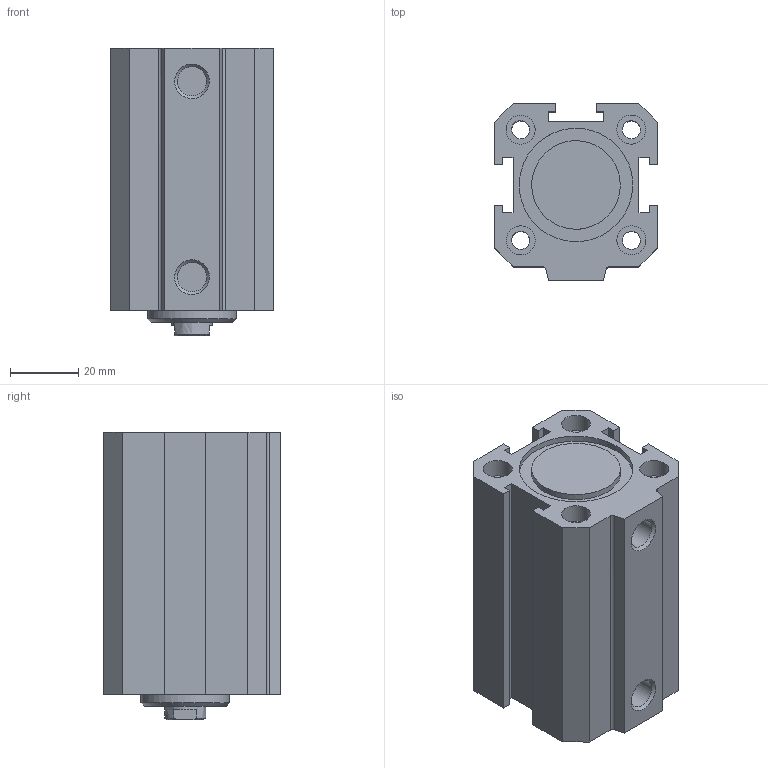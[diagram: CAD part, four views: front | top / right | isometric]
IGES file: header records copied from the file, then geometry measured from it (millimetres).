
Global section: file name: 1511_32_0040; native system: Autodesk Inventor 2014; preprocessor: unknown; author: A. Manieri; date: 20160824.113432; units: millimetre
Bounding box: 48 x 52 x 84.5 mm (x, y, z)
Volume: 123621.8 mm3; surface area: 42172 mm2
Topology: 2 solids, 2 shells, 93 faces, 237 edges, 166 vertices
Faces by surface type: bspline 93
